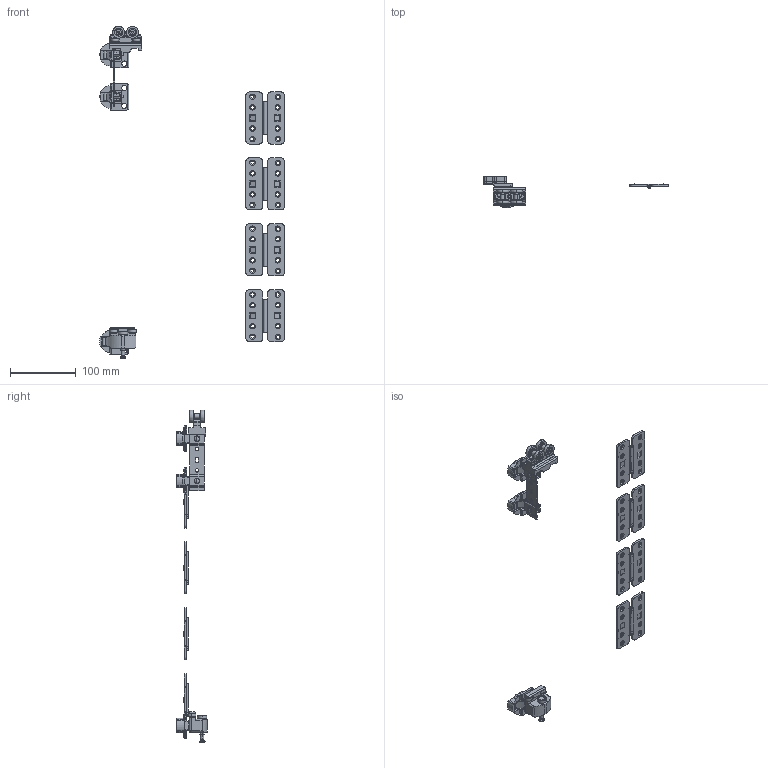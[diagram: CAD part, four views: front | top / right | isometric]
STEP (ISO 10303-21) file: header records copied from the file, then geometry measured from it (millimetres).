
FILE_DESCRIPTION( ( '' ), '1' );
FILE_NAME( 'D:/temp/hettich_stp/hettich/4_folding_sliding/4.4_folding_door/25kg_wl_220-wl_77/wl_77_left/70983.stp', '2013-02-26T10:21:58', ( '' ), ( '' ), ' ', ' ', ' ' );
FILE_SCHEMA( ( 'automotive_design' ) );
Length unit declared in the file: millimetre
Products named in the file (15): 1; 2; 3; 4; 5; 6; 7; 8; 9; 10; 11; 12; 13; 14; 15
Bounding box: 280.51 x 46.6 x 503.78 mm (x, y, z)
Volume: 111634.2 mm3; surface area: 112488.8 mm2
Topology: 15 solids, 15 shells, 2014 faces, 5779 edges, 3753 vertices
Faces by surface type: plane 1183, cylinder 669, torus 100, cone 62
Entity records: 130962 total; most frequent: CARTESIAN_POINT 12037, DIRECTION 11622, STYLED_ITEM 11557, PRESENTATION_STYLE_ASSIGNMENT 11557, COLOUR_RGB 11557, ORIENTED_EDGE 11550, EDGE_CURVE 5775, CURVE_STYLE 5775
